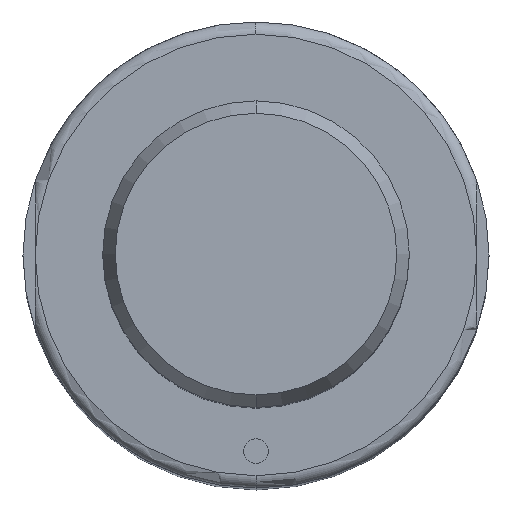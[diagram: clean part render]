
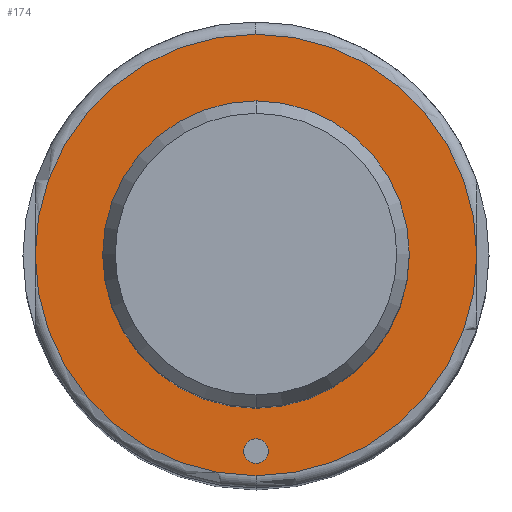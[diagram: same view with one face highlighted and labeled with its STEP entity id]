
A CAD part, top view. The second image highlights one B-rep face of the part: STEP entity #174.
In plain terms, the highlighted planar face has unit normal (0, 0, 1).
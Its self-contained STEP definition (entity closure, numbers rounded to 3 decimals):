
#105=FACE_BOUND('',#298,.T.);
#106=FACE_BOUND('',#299,.T.);
#107=FACE_BOUND('',#300,.T.);
#125=PLANE('',#985);
#174=ADVANCED_FACE('',(#105,#106,#107),#125,.T.);
#298=EDGE_LOOP('',(#459,#460,#461,#462));
#299=EDGE_LOOP('',(#463,#464));
#300=EDGE_LOOP('',(#465,#466));
#367=CIRCLE('',#968,12.5);
#368=CIRCLE('',#970,12.5);
#373=CIRCLE('',#979,18.);
#374=CIRCLE('',#980,18.);
#375=CIRCLE('',#981,18.);
#376=CIRCLE('',#982,18.);
#377=CIRCLE('',#983,1.);
#378=CIRCLE('',#984,1.);
#459=ORIENTED_EDGE('',*,*,#765,.F.);
#460=ORIENTED_EDGE('',*,*,#766,.F.);
#461=ORIENTED_EDGE('',*,*,#767,.F.);
#462=ORIENTED_EDGE('',*,*,#768,.F.);
#463=ORIENTED_EDGE('',*,*,#769,.F.);
#464=ORIENTED_EDGE('',*,*,#770,.F.);
#465=ORIENTED_EDGE('',*,*,#758,.T.);
#466=ORIENTED_EDGE('',*,*,#756,.T.);
#677=VERTEX_POINT('',#1411);
#678=VERTEX_POINT('',#1413);
#683=VERTEX_POINT('',#1432);
#684=VERTEX_POINT('',#1433);
#685=VERTEX_POINT('',#1435);
#686=VERTEX_POINT('',#1437);
#687=VERTEX_POINT('',#1440);
#688=VERTEX_POINT('',#1441);
#756=EDGE_CURVE('',#678,#677,#367,.T.);
#758=EDGE_CURVE('',#677,#678,#368,.T.);
#765=EDGE_CURVE('',#683,#684,#373,.T.);
#766=EDGE_CURVE('',#685,#683,#374,.T.);
#767=EDGE_CURVE('',#686,#685,#375,.T.);
#768=EDGE_CURVE('',#684,#686,#376,.T.);
#769=EDGE_CURVE('',#687,#688,#377,.T.);
#770=EDGE_CURVE('',#688,#687,#378,.T.);
#968=AXIS2_PLACEMENT_3D('',#1412,#1108,#1109);
#970=AXIS2_PLACEMENT_3D('',#1416,#1113,#1114);
#979=AXIS2_PLACEMENT_3D('',#1431,#1133,#1134);
#980=AXIS2_PLACEMENT_3D('',#1434,#1135,#1136);
#981=AXIS2_PLACEMENT_3D('',#1436,#1137,#1138);
#982=AXIS2_PLACEMENT_3D('',#1438,#1139,#1140);
#983=AXIS2_PLACEMENT_3D('',#1439,#1141,#1142);
#984=AXIS2_PLACEMENT_3D('',#1442,#1143,#1144);
#985=AXIS2_PLACEMENT_3D('',#1443,#1145,#1146);
#1108=DIRECTION('',(0.,0.,-1.));
#1109=DIRECTION('',(-1.,0.,0.));
#1113=DIRECTION('',(0.,0.,-1.));
#1114=DIRECTION('',(1.,0.,0.));
#1133=DIRECTION('',(0.,0.,-1.));
#1134=DIRECTION('',(-1.,0.,0.));
#1135=DIRECTION('',(0.,0.,-1.));
#1136=DIRECTION('',(1.,0.,0.));
#1137=DIRECTION('',(0.,0.,-1.));
#1138=DIRECTION('',(1.,0.,0.));
#1139=DIRECTION('',(0.,0.,-1.));
#1140=DIRECTION('',(-1.,0.,0.));
#1141=DIRECTION('',(0.,0.,1.));
#1142=DIRECTION('',(1.,0.,0.));
#1143=DIRECTION('',(0.,0.,1.));
#1144=DIRECTION('',(-1.,0.,0.));
#1145=DIRECTION('',(0.,0.,1.));
#1146=DIRECTION('',(1.,0.,0.));
#1411=CARTESIAN_POINT('',(0.,-12.5,95.));
#1412=CARTESIAN_POINT('',(0.,0.,95.));
#1413=CARTESIAN_POINT('',(0.,12.5,95.));
#1416=CARTESIAN_POINT('',(0.,0.,95.));
#1431=CARTESIAN_POINT('',(0.,0.,95.));
#1432=CARTESIAN_POINT('',(0.,18.,95.));
#1433=CARTESIAN_POINT('',(18.,0.,95.));
#1434=CARTESIAN_POINT('',(0.,0.,95.));
#1435=CARTESIAN_POINT('',(-18.,0.,95.));
#1436=CARTESIAN_POINT('',(0.,0.,95.));
#1437=CARTESIAN_POINT('',(0.,-18.,95.));
#1438=CARTESIAN_POINT('',(0.,0.,95.));
#1439=CARTESIAN_POINT('',(0.,-16.,95.));
#1440=CARTESIAN_POINT('',(0.,-15.,95.));
#1441=CARTESIAN_POINT('',(0.,-17.,95.));
#1442=CARTESIAN_POINT('',(0.,-16.,95.));
#1443=CARTESIAN_POINT('',(0.,0.,95.));
